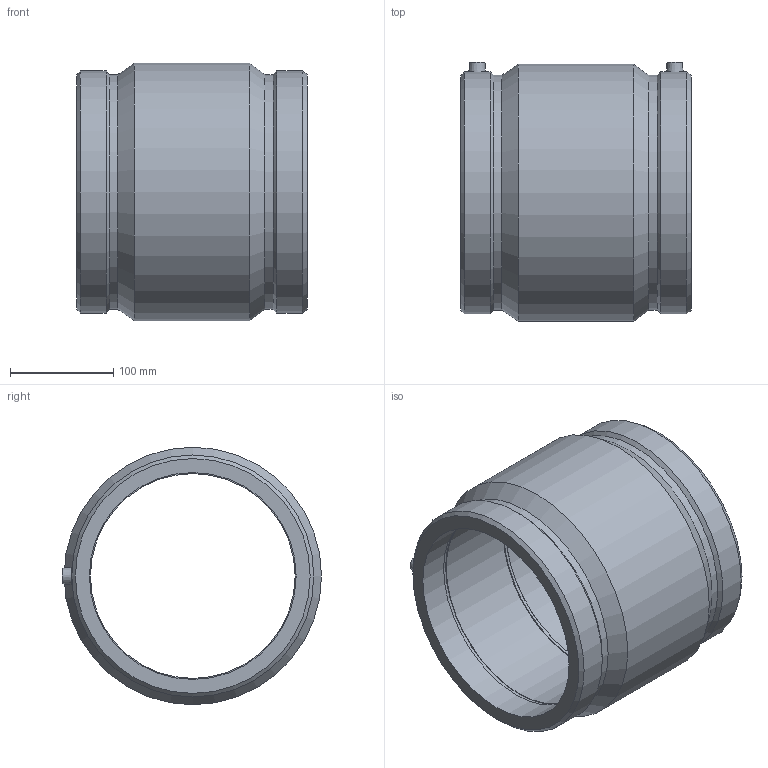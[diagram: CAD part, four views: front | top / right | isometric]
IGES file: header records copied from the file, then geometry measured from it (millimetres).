
Global section: file name: 450104200.ipt; native system: Autodesk Inventor 2015; preprocessor: unknown; author: KIM; date: 20171106.093355; units: millimetre
Bounding box: 223 x 250.5 x 249 mm (x, y, z)
Volume: 3208964.2 mm3; surface area: 340898 mm2
Topology: 1 solids, 1 shells, 36 faces, 80 edges, 54 vertices
Faces by surface type: plane 12, revolution 9, cone 8, cylinder 7
Full cylindrical faces by diameter (mm): 4 x2, 227.038 x2, 234.06 x2, 249 x1
